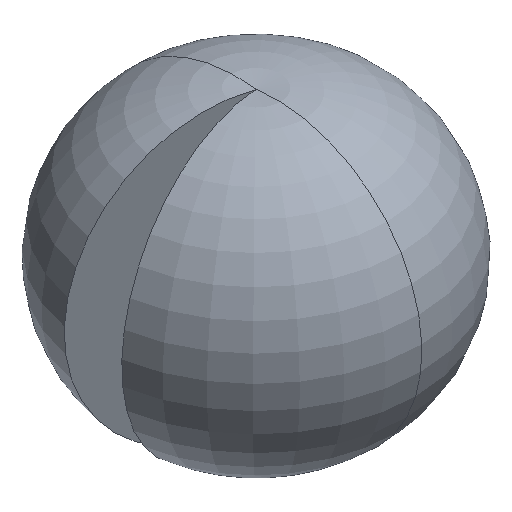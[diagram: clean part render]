
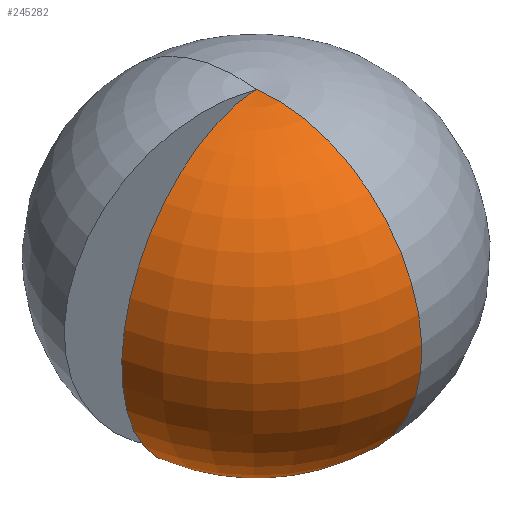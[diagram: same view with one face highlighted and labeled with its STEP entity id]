
A CAD part, isometric view. The second image highlights one B-rep face of the part: STEP entity #245282.
In plain terms, the highlighted toroidal (fillet/blend) face has major radius 279.64 mm and minor radius 2020.25 mm.
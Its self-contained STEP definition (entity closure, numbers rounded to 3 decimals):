
#2383 = EDGE_CURVE ( 'NONE', #244520, #192055, #67368, .T. ) ;
#18897 = TOROIDAL_SURFACE ( 'NONE', #257961, 279.64, 2020.245 ) ;
#29510 = DIRECTION ( 'NONE',  ( -1., 0., 0. ) ) ;
#33807 = DIRECTION ( 'NONE',  ( -0.985, -0.174, 0. ) ) ;
#53332 = AXIS2_PLACEMENT_3D ( 'NONE', #129001, #168577, #263984 ) ;
#55920 = DIRECTION ( 'NONE',  ( 0., -1., 0. ) ) ;
#67368 = CIRCLE ( 'NONE', #53332, 1438.405 ) ;
#70309 = EDGE_CURVE ( 'NONE', #192055, #152758, #90790, .T. ) ;
#90790 = CIRCLE ( 'NONE', #104853, 2020.245 ) ;
#98436 = CARTESIAN_POINT ( 'NONE',  ( 0., -279.64, 670. ) ) ;
#102752 = DIRECTION ( 'NONE',  ( -0.174, 0.985, 0. ) ) ;
#104853 = AXIS2_PLACEMENT_3D ( 'NONE', #98436, #29510, #112241 ) ;
#111009 = CIRCLE ( 'NONE', #115597, 2020.245 ) ;
#112241 = DIRECTION ( 'NONE',  ( 0., 0., 1. ) ) ;
#115597 = AXIS2_PLACEMENT_3D ( 'NONE', #236342, #102752, #33807 ) ;
#127878 = DIRECTION ( 'NONE',  ( 0., 0., 1. ) ) ;
#129001 = CARTESIAN_POINT ( 'NONE',  ( 0., 0., -984.888 ) ) ;
#145970 = EDGE_LOOP ( 'NONE', ( #242700, #269004, #270769 ) ) ;
#152758 = VERTEX_POINT ( 'NONE', #210683 ) ;
#153210 = EDGE_CURVE ( 'NONE', #244520, #152758, #111009, .T. ) ;
#168577 = DIRECTION ( 'NONE',  ( 0., 0., 1. ) ) ;
#188946 = CARTESIAN_POINT ( 'NONE',  ( 0., -1438.405, -984.888 ) ) ;
#192055 = VERTEX_POINT ( 'NONE', #188946 ) ;
#193819 = FACE_OUTER_BOUND ( 'NONE', #145970, .T. ) ;
#210683 = CARTESIAN_POINT ( 'NONE',  ( 0., 0., 2670.798 ) ) ;
#236342 = CARTESIAN_POINT ( 'NONE',  ( -275.391, -48.559, 670. ) ) ;
#242700 = ORIENTED_EDGE ( 'NONE', *, *, #2383, .T. ) ;
#244520 = VERTEX_POINT ( 'NONE', #266397 ) ;
#245282 = ADVANCED_FACE ( 'NONE', ( #193819 ), #18897, .T. ) ;
#257059 = CARTESIAN_POINT ( 'NONE',  ( 0., 0., 670. ) ) ;
#257961 = AXIS2_PLACEMENT_3D ( 'NONE', #257059, #127878, #55920 ) ;
#263984 = DIRECTION ( 'NONE',  ( 0., -1., 0. ) ) ;
#266397 = CARTESIAN_POINT ( 'NONE',  ( -1416.552, -249.776, -984.888 ) ) ;
#269004 = ORIENTED_EDGE ( 'NONE', *, *, #70309, .T. ) ;
#270769 = ORIENTED_EDGE ( 'NONE', *, *, #153210, .F. ) ;
